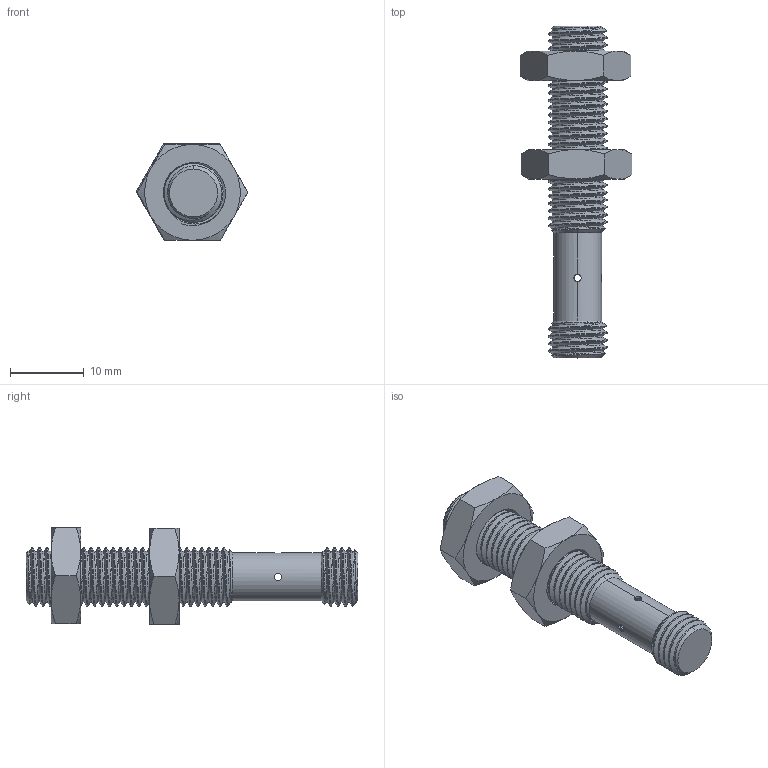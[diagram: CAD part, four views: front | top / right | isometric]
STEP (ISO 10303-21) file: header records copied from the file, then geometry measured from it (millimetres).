
FILE_DESCRIPTION (( 'STEP AP203' ), '1' );
FILE_NAME ('BIS3P42.STEP', '2024-08-21T14:11:25', ( '' ), ( '' ), 'SwSTEP 2.0', 'SolidWorks 2016', '' );
FILE_SCHEMA (( 'CONFIG_CONTROL_DESIGN' ));
Length unit declared in the file: millimetre
Products named in the file (3): 錨璃2; BIS3P42
Assembly tree (3 placements, depth 2):
  BIS3P42
    BIS3P42
    錨璃2  x2
Bounding box: 15.15 x 45 x 13.1 mm (x, y, z)
Volume: 1308.4 mm3; surface area: 3394.6 mm2
Topology: 3 solids, 3 shells, 157 faces, 430 edges, 276 vertices
Faces by surface type: cylinder 92, cone 34, plane 19, bspline 12
Entity records: 21118 total; most frequent: CARTESIAN_POINT 18142, ORIENTED_EDGE 704, DIRECTION 404, EDGE_CURVE 352, VERTEX_POINT 228, AXIS2_PLACEMENT_3D 152, EDGE_LOOP 132, FACE_OUTER_BOUND 125
